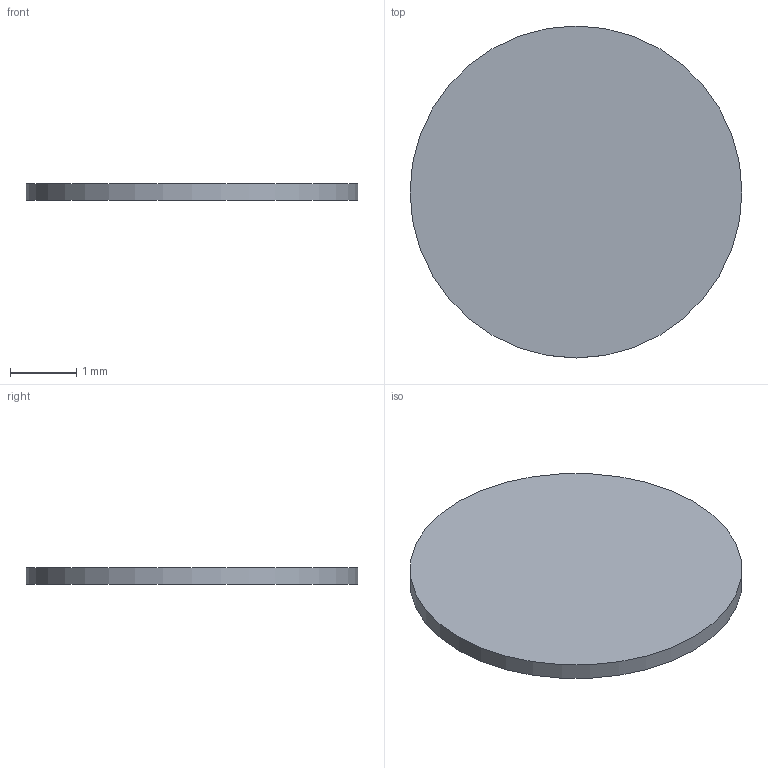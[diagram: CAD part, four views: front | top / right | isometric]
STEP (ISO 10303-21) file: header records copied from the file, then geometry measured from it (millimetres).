
FILE_DESCRIPTION(/* description */ (''),/* implementation_level */ '2;1');
FILE_NAME(/* name */ 'C28_R3_Front_Compliant_Contact_0p25.step',/* time_stamp */ '2026-09-10T17:50:11-07:00',/* author */ (''),/* organization */ (''),/* preprocessor_version */ 'ST-DEVELOPER v20.1',/* originating_system */ 'Autodesk Translation Framework v15.8.0.0',/* authorisation */ '');
FILE_SCHEMA (('AUTOMOTIVE_DESIGN { 1 0 10303 214 3 1 1 }'));
Length unit declared in the file: millimetre
Products named in the file (1): 2026-09-10-17-50-11-106
Bounding box: 5 x 5 x 0.25 mm (x, y, z)
Volume: 4.9 mm3; surface area: 43.2 mm2
Topology: 1 solids, 1 shells, 3 faces, 3 edges, 2 vertices
Faces by surface type: plane 2, cylinder 1
Full cylindrical faces by diameter (mm): 5 x1
Entity records: 92 total; most frequent: DIRECTION 13, CARTESIAN_POINT 9, ORIENTED_EDGE 6, AXIS2_PLACEMENT_3D 6, FACE_OUTER_BOUND 3, EDGE_LOOP 3, EDGE_CURVE 3, ADVANCED_FACE 3
